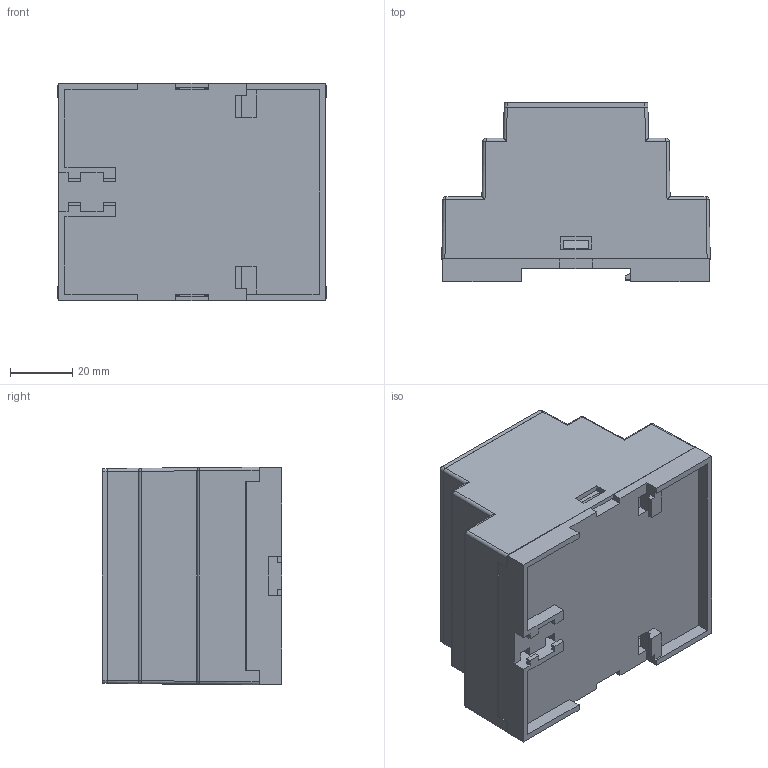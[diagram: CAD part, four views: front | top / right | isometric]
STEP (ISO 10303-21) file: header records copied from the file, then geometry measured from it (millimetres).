
FILE_DESCRIPTION (( 'STEP AP203' ), '1' );
FILE_NAME ('RT-104-A.STEP', '2022-04-29T05:51:30', ( '' ), ( '' ), 'SwSTEP 2.0', 'SolidWorks 2021', '' );
FILE_SCHEMA (( 'CONFIG_CONTROL_DESIGN' ));
Length unit declared in the file: millimetre
Products named in the file (4): cam; parça 2; govde; RT-104-A
Assembly tree (3 placements, depth 2):
  RT-104-A
    govde
    cam
    parça 2
Bounding box: 86.3 x 57.7 x 70 mm (x, y, z)
Volume: 57018.6 mm3; surface area: 62364.8 mm2
Topology: 3 solids, 3 shells, 393 faces, 1096 edges, 720 vertices
Faces by surface type: plane 291, cylinder 54, bspline 40, cone 8
Entity records: 13124 total; most frequent: CARTESIAN_POINT 2899, ORIENTED_EDGE 2192, DIRECTION 1818, EDGE_CURVE 1096, LINE 908, VECTOR 908, VERTEX_POINT 720, AXIS2_PLACEMENT_3D 455
